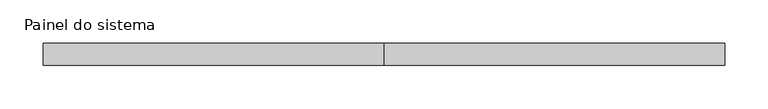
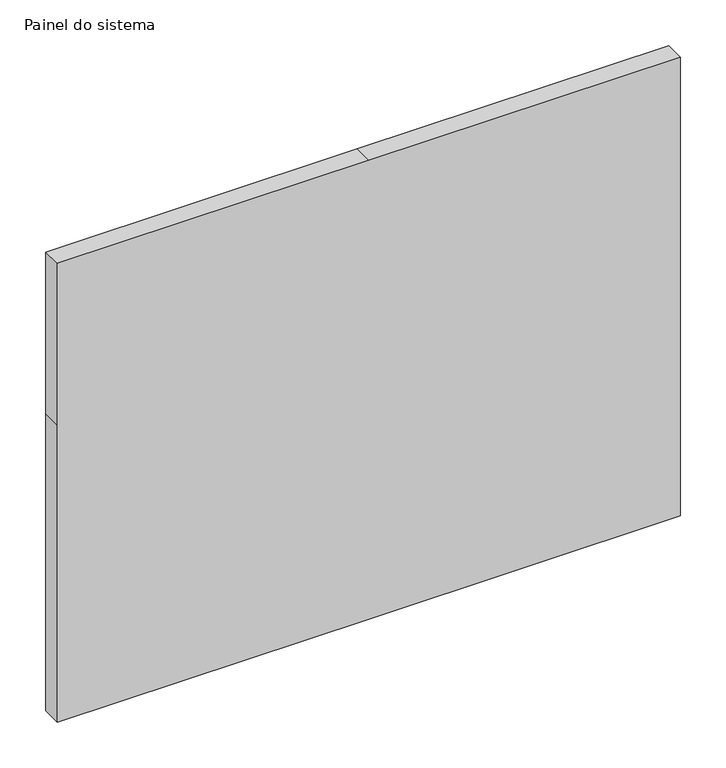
"""IFC4 building model written with IfcOpenShell, lengths in millimetres: plate geometry, Painel do sistema : Envidraçado."""

from ifc_helpers import new_model, si_unit, frame, origin, place, context, project, spatial, polyline, outline, extrude, source, transform, mapped, element, save


def painel_do_sistema_e4eb28ec(model_context):
    return source(origin(), model_context, "Body", "SweptSolid", [
        extrude(outline(polyline([(0.0, -391.6666667), (0.0, 0.0), (0.0, 391.6666667), (395.0, 391.6666667), (610.0, 391.6666667), (610.0, 0.0), (610.0, -391.6666667), (395.0, -391.6666667), (0.0, -391.6666667)])), frame((0.0, 24.5, 0.0), z_axis=(0.0, 1.0, 0.0), x_axis=(0.0, 0.0, 1.0)), (0.0, 0.0, 1.0), 25.0),
    ])


if __name__ == "__main__":
    model = new_model("IFC4")
    model_context = context("Model", 3, world=origin())
    ifc_project = project(units=[si_unit("LENGTHUNIT", "METRE", prefix="MILLI")], contexts=[model_context])
    site = spatial("IfcSite", under=ifc_project)
    building = spatial("IfcBuilding", under=site)
    placement = place(None, origin())
    painel_do_sistema_shape = painel_do_sistema_e4eb28ec(model_context)
    element("IfcPlate", 1, ObjectType="Painel do sistema : Envidraçado", at=placement, inside=building, context=model_context, shape_type="MappedRepresentation", body=[
        mapped(painel_do_sistema_shape, transform((0.0, 0.0, 0.0), x_axis=(1.0, 0.0, 0.0), y_axis=(0.0, 1.0, 0.0), z_axis=(0.0, 0.0, 1.0))),
    ])
    save(model, "model.ifc")
